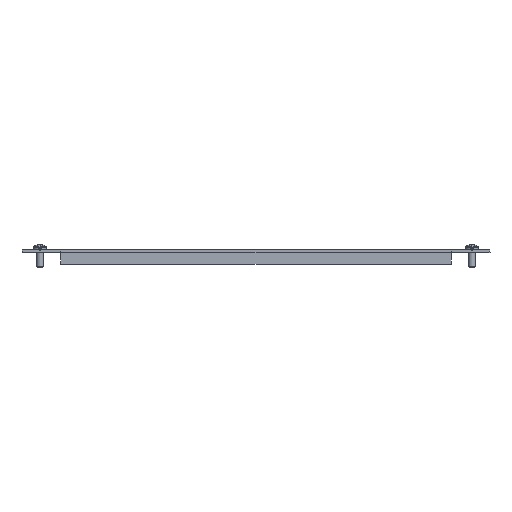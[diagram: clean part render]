
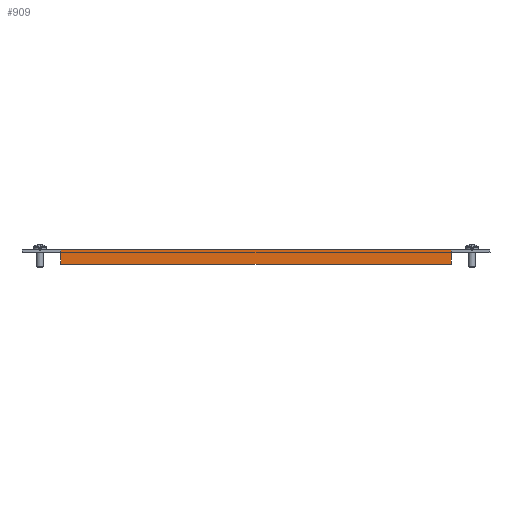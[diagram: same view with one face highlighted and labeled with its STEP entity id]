
A CAD part, front view. The second image highlights one B-rep face of the part: STEP entity #909.
In plain terms, the highlighted planar face has unit normal (0, -1, 0).
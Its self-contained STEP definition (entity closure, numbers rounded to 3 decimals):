
#145 = LINE ( 'NONE', #1863, #857 ) ;
#238 = VERTEX_POINT ( 'NONE', #4420 ) ;
#544 = DIRECTION ( 'NONE',  ( 0., 0., 1. ) ) ;
#801 = ORIENTED_EDGE ( 'NONE', *, *, #4846, .T. ) ;
#857 = VECTOR ( 'NONE', #544, 1000. ) ;
#909 = ADVANCED_FACE ( 'NONE', ( #1710 ), #1656, .T. ) ;
#910 = CARTESIAN_POINT ( 'NONE',  ( 0., -635., 0. ) ) ;
#921 = EDGE_CURVE ( 'NONE', #3426, #2307, #2524, .T. ) ;
#937 = VECTOR ( 'NONE', #4090, 1000. ) ;
#945 = EDGE_CURVE ( 'NONE', #238, #4804, #4303, .T. ) ;
#1103 = CARTESIAN_POINT ( 'NONE',  ( 135.5, -635., -10. ) ) ;
#1292 = DIRECTION ( 'NONE',  ( -1., 0., 0. ) ) ;
#1510 = LINE ( 'NONE', #1103, #937 ) ;
#1656 = PLANE ( 'NONE',  #4381 ) ;
#1683 = CARTESIAN_POINT ( 'NONE',  ( -135.5, -635., -10. ) ) ;
#1710 = FACE_OUTER_BOUND ( 'NONE', #2939, .T. ) ;
#1863 = CARTESIAN_POINT ( 'NONE',  ( -135.5, -635., -1.8 ) ) ;
#1950 = CARTESIAN_POINT ( 'NONE',  ( -135.5, -635., 0. ) ) ;
#2046 = CARTESIAN_POINT ( 'NONE',  ( 135.5, -635., -10. ) ) ;
#2062 = LINE ( 'NONE', #2861, #3192 ) ;
#2159 = ORIENTED_EDGE ( 'NONE', *, *, #4448, .F. ) ;
#2304 = VECTOR ( 'NONE', #2504, 1000. ) ;
#2307 = VERTEX_POINT ( 'NONE', #5070 ) ;
#2504 = DIRECTION ( 'NONE',  ( 0., 0., 1. ) ) ;
#2524 = LINE ( 'NONE', #1683, #2654 ) ;
#2611 = DIRECTION ( 'NONE',  ( 0., -1., 0. ) ) ;
#2614 = LINE ( 'NONE', #910, #4761 ) ;
#2654 = VECTOR ( 'NONE', #1292, 1000. ) ;
#2861 = CARTESIAN_POINT ( 'NONE',  ( -135.5, -635., 0. ) ) ;
#2922 = CARTESIAN_POINT ( 'NONE',  ( 135.5, -635., -2.4 ) ) ;
#2939 = EDGE_LOOP ( 'NONE', ( #3239, #3597, #801, #3483, #2159, #4951 ) ) ;
#3192 = VECTOR ( 'NONE', #4682, 1000. ) ;
#3222 = EDGE_CURVE ( 'NONE', #238, #3426, #1510, .T. ) ;
#3239 = ORIENTED_EDGE ( 'NONE', *, *, #3222, .F. ) ;
#3383 = VERTEX_POINT ( 'NONE', #1950 ) ;
#3426 = VERTEX_POINT ( 'NONE', #2046 ) ;
#3483 = ORIENTED_EDGE ( 'NONE', *, *, #3868, .F. ) ;
#3597 = ORIENTED_EDGE ( 'NONE', *, *, #945, .T. ) ;
#3804 = DIRECTION ( 'NONE',  ( 0., 0., -1. ) ) ;
#3868 = EDGE_CURVE ( 'NONE', #3987, #3383, #2062, .T. ) ;
#3987 = VERTEX_POINT ( 'NONE', #4267 ) ;
#4090 = DIRECTION ( 'NONE',  ( 0., 0., -1. ) ) ;
#4267 = CARTESIAN_POINT ( 'NONE',  ( -135.5, -635., -2.4 ) ) ;
#4303 = LINE ( 'NONE', #2922, #2304 ) ;
#4381 = AXIS2_PLACEMENT_3D ( 'NONE', #4799, #2611, #3804 ) ;
#4420 = CARTESIAN_POINT ( 'NONE',  ( 135.5, -635., -2.4 ) ) ;
#4448 = EDGE_CURVE ( 'NONE', #2307, #3987, #145, .T. ) ;
#4682 = DIRECTION ( 'NONE',  ( 0., 0., 1. ) ) ;
#4761 = VECTOR ( 'NONE', #4771, 1000. ) ;
#4771 = DIRECTION ( 'NONE',  ( -1., 0., 0. ) ) ;
#4799 = CARTESIAN_POINT ( 'NONE',  ( 0., -635., 0. ) ) ;
#4804 = VERTEX_POINT ( 'NONE', #5544 ) ;
#4846 = EDGE_CURVE ( 'NONE', #4804, #3383, #2614, .T. ) ;
#4951 = ORIENTED_EDGE ( 'NONE', *, *, #921, .F. ) ;
#5070 = CARTESIAN_POINT ( 'NONE',  ( -135.5, -635., -10. ) ) ;
#5544 = CARTESIAN_POINT ( 'NONE',  ( 135.5, -635., 0. ) ) ;
